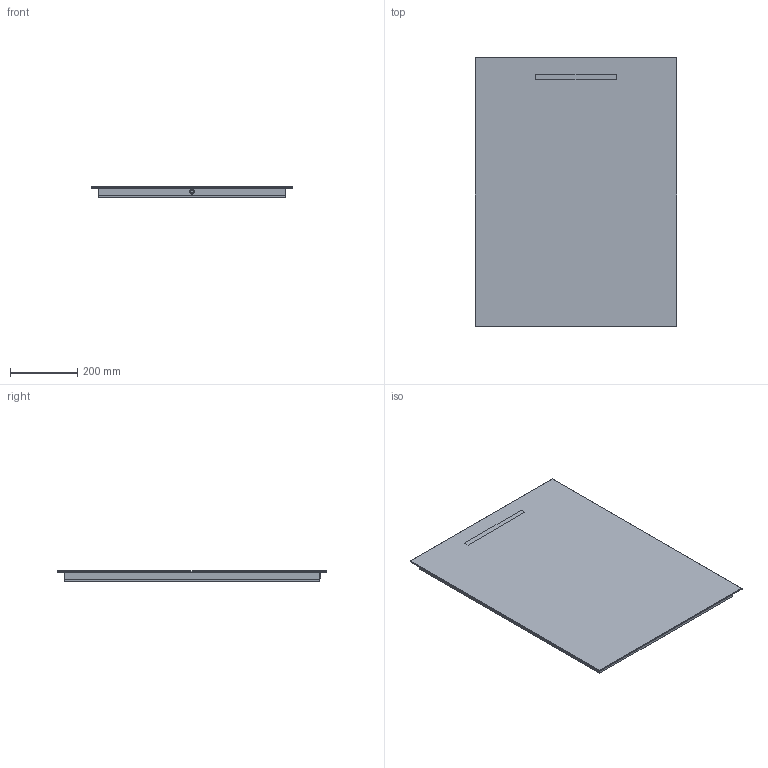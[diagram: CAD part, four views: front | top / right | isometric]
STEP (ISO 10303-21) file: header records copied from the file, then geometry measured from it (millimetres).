
FILE_DESCRIPTION (( 'STEP AP203' ), '1' );
FILE_NAME ('SPIEGEL MODEL 13 60CM.STEP', '2016-07-14T09:45:13', ( '' ), ( '' ), 'SwSTEP 2.0', 'SolidWorks 2016', '' );
FILE_SCHEMA (( 'CONFIG_CONTROL_DESIGN' ));
Length unit declared in the file: millimetre
Products named in the file (1): SPIEGEL MODEL 13 60CM
Bounding box: 600 x 800 x 30 mm (x, y, z)
Volume: 2909524.6 mm3; surface area: 1110515.9 mm2
Topology: 2 solids, 2 shells, 69 faces, 148 edges, 90 vertices
Faces by surface type: plane 59, cylinder 8, torus 2
Entity records: 1893 total; most frequent: DIRECTION 308, CARTESIAN_POINT 308, ORIENTED_EDGE 296, EDGE_CURVE 148, VECTOR 128, LINE 128, VERTEX_POINT 90, AXIS2_PLACEMENT_3D 90
